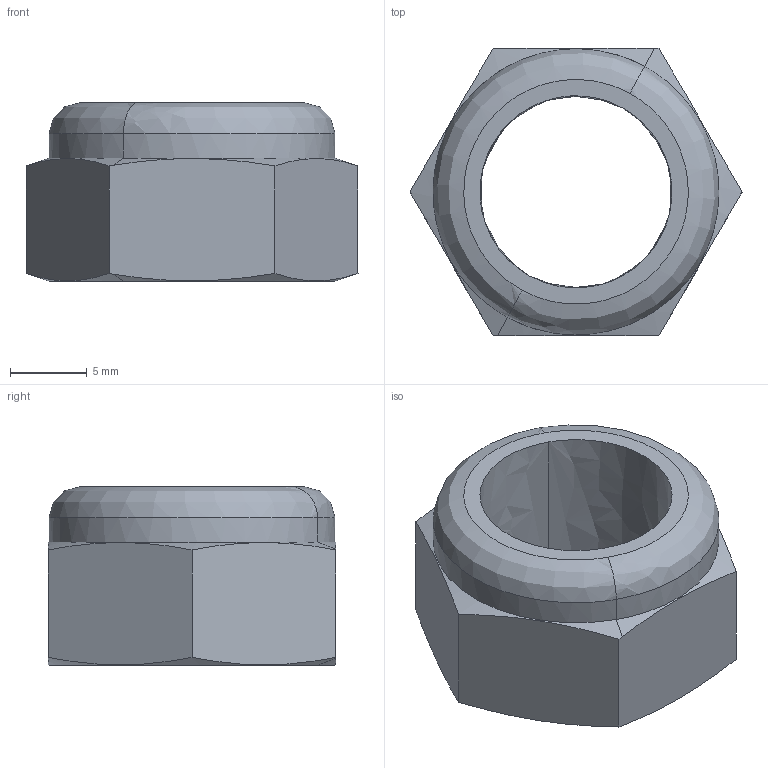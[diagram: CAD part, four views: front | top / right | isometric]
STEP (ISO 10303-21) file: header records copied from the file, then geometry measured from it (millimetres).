
FILE_DESCRIPTION (( 'STEP AP214' ), '1' );
FILE_NAME ('KTU-200WJ-GS-70.STEP', '2018-08-30T08:00:19', ( '' ), ( '' ), 'SwSTEP 2.0', 'SolidWorks 2010', '' );
FILE_SCHEMA (( 'AUTOMOTIVE_DESIGN' ));
Length unit declared in the file: millimetre
Products named in the file (1): KTU-200WJ-GS-70
Bounding box: 21.6 x 18.71 x 11.6 mm (x, y, z)
Volume: 1923.8 mm3; surface area: 1472.6 mm2
Topology: 1 solids, 1 shells, 18 faces, 66 edges, 50 vertices
Faces by surface type: bspline 10, plane 8
Entity records: 2876 total; most frequent: CARTESIAN_POINT 2393, ORIENTED_EDGE 132, EDGE_CURVE 66, B_SPLINE_CURVE_WITH_KNOTS 52, VERTEX_POINT 50, DIRECTION 32, EDGE_LOOP 20, FACE_OUTER_BOUND 18
